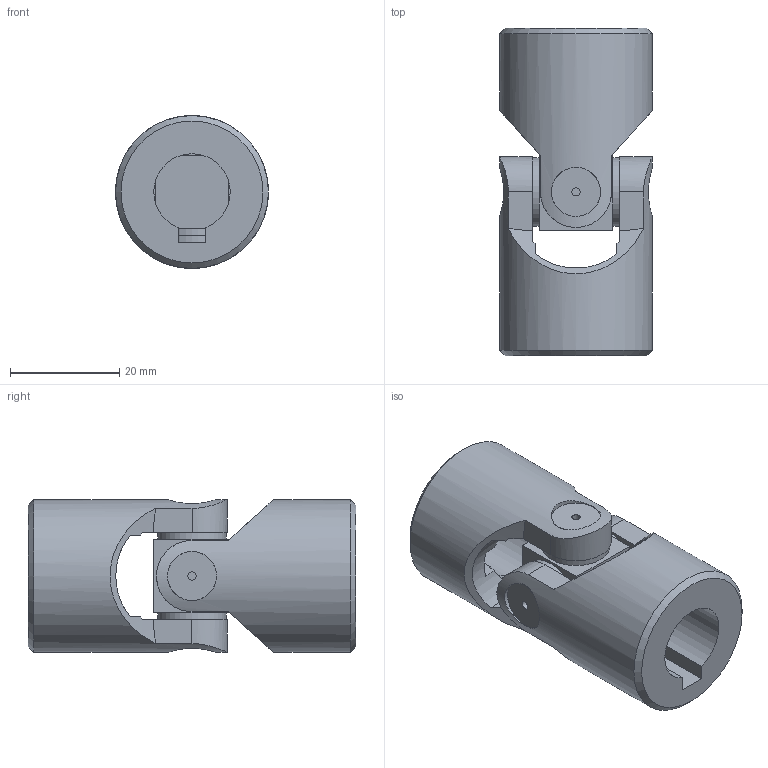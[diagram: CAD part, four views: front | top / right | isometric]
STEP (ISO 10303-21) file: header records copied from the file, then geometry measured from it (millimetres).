
FILE_DESCRIPTION(/* description */ ('EXTENSIBLE TRANSIMISSIONS Series G DIN 808 -2-'),/* implementation_level */ '2;1');
FILE_NAME(/* name */ '\\SRV2016\societa\Stefano\Disegni 3D\Dis. Clienti\0000Catalogo 3D\01Singoli G-GB\SG0S142C.stp',/* time_stamp */ '2021-11-08T15:39:49+01:00',/* author */ ('acquisti'),/* organization */ ('MARIOFERRI'),/* preprocessor_version */ 'ST-DEVELOPER v15.6',/* originating_system */ 'Autodesk Inventor 2015',/* authorisation */ '');
FILE_SCHEMA (('AUTOMOTIVE_DESIGN { 1 0 10303 214 3 1 1 }'));
Length unit declared in the file: millimetre
Products named in the file (3): 05G SFE; 05G MOC; Assieme1
Assembly tree (3 placements, depth 2):
  Assieme1
    05G SFE
    05G MOC  x2
Bounding box: 28 x 60 x 28 mm (x, y, z)
Volume: 23740.2 mm3; surface area: 10225.2 mm2
Topology: 3 solids, 3 shells, 78 faces, 194 edges, 132 vertices
Faces by surface type: plane 42, cylinder 22, cone 12, torus 2
Full cylindrical faces by diameter (mm): 1.5 x4, 9 x4, 12.5 x4, 28 x2
Entity records: 1519 total; most frequent: CARTESIAN_POINT 472, DIRECTION 203, ORIENTED_EDGE 190, EDGE_CURVE 95, AXIS2_PLACEMENT_3D 85, VERTEX_POINT 71, EDGE_LOOP 66, FACE_OUTER_BOUND 46
